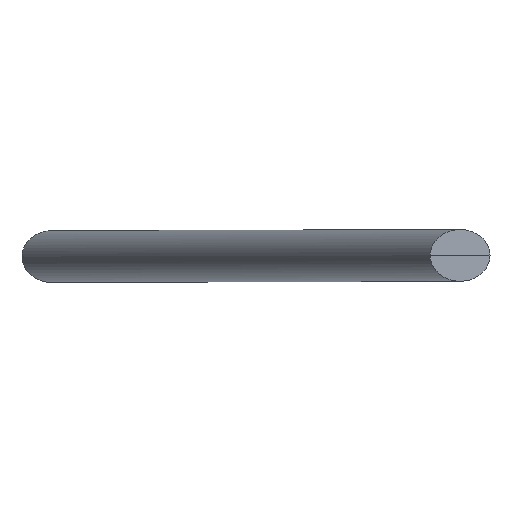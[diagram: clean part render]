
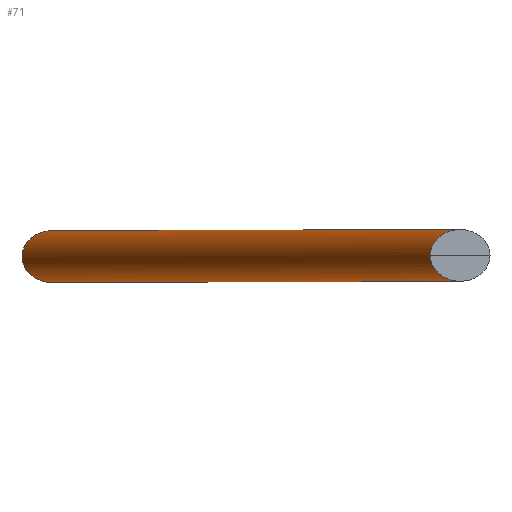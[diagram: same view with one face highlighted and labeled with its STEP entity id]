
A CAD part, top view. The second image highlights one B-rep face of the part: STEP entity #71.
In plain terms, the highlighted cylindrical face has radius 15 mm (diameter 30 mm), a full revolution.
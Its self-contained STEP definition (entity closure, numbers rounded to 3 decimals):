
#14=FACE_BOUND('',#26,.T.);
#15=CYLINDRICAL_SURFACE('',#94,15.);
#20=FACE_OUTER_BOUND('',#25,.T.);
#25=EDGE_LOOP('',(#53,#54));
#26=EDGE_LOOP('',(#55,#56));
#27=ELLIPSE('',#87,17.321,15.);
#28=ELLIPSE('',#89,17.321,15.);
#29=ELLIPSE('',#91,17.321,15.);
#30=ELLIPSE('',#93,17.321,15.);
#35=VERTEX_POINT('',#119);
#36=VERTEX_POINT('',#120);
#37=VERTEX_POINT('',#124);
#38=VERTEX_POINT('',#125);
#40=EDGE_CURVE('',#36,#35,#27,.T.);
#42=EDGE_CURVE('',#38,#37,#28,.T.);
#43=EDGE_CURVE('',#35,#36,#29,.T.);
#44=EDGE_CURVE('',#37,#38,#30,.T.);
#53=ORIENTED_EDGE('',*,*,#43,.T.);
#54=ORIENTED_EDGE('',*,*,#40,.T.);
#55=ORIENTED_EDGE('',*,*,#42,.T.);
#56=ORIENTED_EDGE('',*,*,#44,.T.);
#71=ADVANCED_FACE('',(#20,#14),#15,.T.);
#87=AXIS2_PLACEMENT_3D('',#122,#100,#101);
#89=AXIS2_PLACEMENT_3D('',#127,#105,#106);
#91=AXIS2_PLACEMENT_3D('',#129,#109,#110);
#93=AXIS2_PLACEMENT_3D('',#131,#113,#114);
#94=AXIS2_PLACEMENT_3D('',#132,#115,#116);
#100=DIRECTION('center_axis',(0.,0.,
-1.));
#101=DIRECTION('ref_axis',(-1.,0.,0.));
#105=DIRECTION('center_axis',(0.,0.,
1.));
#106=DIRECTION('ref_axis',(-1.,0.,0.));
#109=DIRECTION('center_axis',(0.,0.,
-1.));
#110=DIRECTION('ref_axis',(-1.,0.,0.));
#113=DIRECTION('center_axis',(0.,0.,
1.));
#114=DIRECTION('ref_axis',(-1.,0.,0.));
#115=DIRECTION('center_axis',(-0.5,0.,-0.866));
#116=DIRECTION('ref_axis',(-0.866,0.,0.5));
#119=CARTESIAN_POINT('',(2494.77,470.,-30.));
#120=CARTESIAN_POINT('',(2460.129,470.,-30.));
#122=CARTESIAN_POINT('Origin',(2477.45,470.,-30.));
#124=CARTESIAN_POINT('',(2258.057,470.,-440.));
#125=CARTESIAN_POINT('',(2223.416,470.,-440.));
#127=CARTESIAN_POINT('Origin',(2240.736,470.,-440.));
#129=CARTESIAN_POINT('Origin',(2477.45,470.,-30.));
#131=CARTESIAN_POINT('Origin',(2240.736,470.,-440.));
#132=CARTESIAN_POINT('Origin',(2359.093,470.,-235.));
